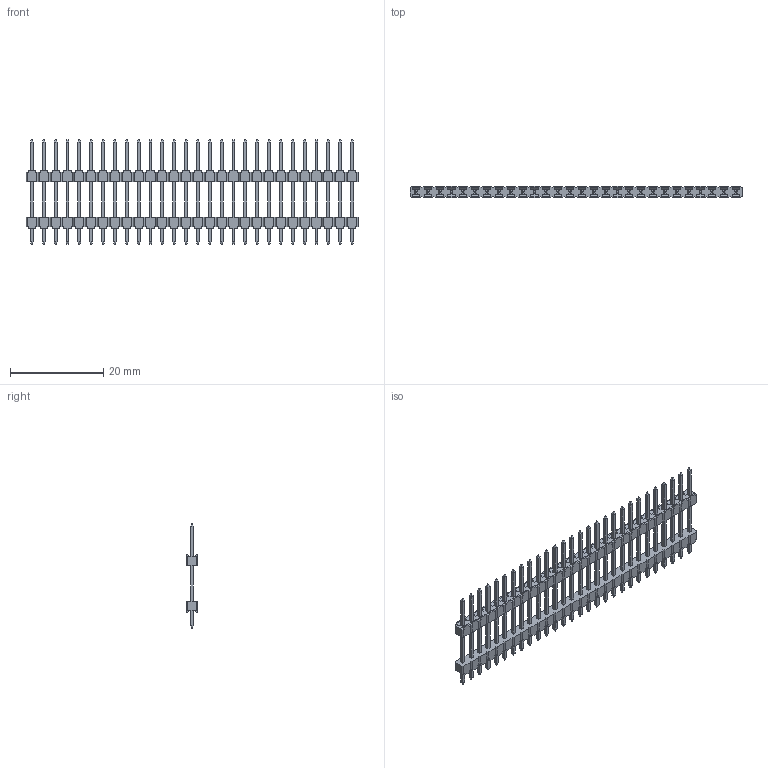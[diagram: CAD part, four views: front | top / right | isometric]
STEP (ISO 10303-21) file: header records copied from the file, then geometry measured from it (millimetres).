
FILE_DESCRIPTION(/* description */ (''),/* implementation_level */ '2;1');
FILE_NAME(/* name */ '961428-9041204-XX',/* time_stamp */ '2007-06-14T18:11:59+02:00',/* author */ (''),/* organization */ (''),/* preprocessor_version */ 'ST-DEVELOPER v9',/* originating_system */ 'UGS - NX 3.0',/* authorisation */ '');
FILE_SCHEMA (('AUTOMOTIVE_DESIGN { 1 0 10303 214 1 1 1 1 }'));
Length unit declared in the file: millimetre
Products named in the file (1): 961428-9041204-XX
Bounding box: 71.12 x 2.5 x 22.4 mm (x, y, z)
Volume: 934.3 mm3; surface area: 2751.9 mm2
Topology: 1 solids, 1 shells, 1524 faces, 4168 edges, 2704 vertices
Faces by surface type: plane 1524
Entity records: 47032 total; most frequent: CARTESIAN_POINT 8397, ORIENTED_EDGE 8336, DIRECTION 7218, EDGE_CURVE 4168, LINE 4168, VECTOR 4168, VERTEX_POINT 2704, EDGE_LOOP 1636
